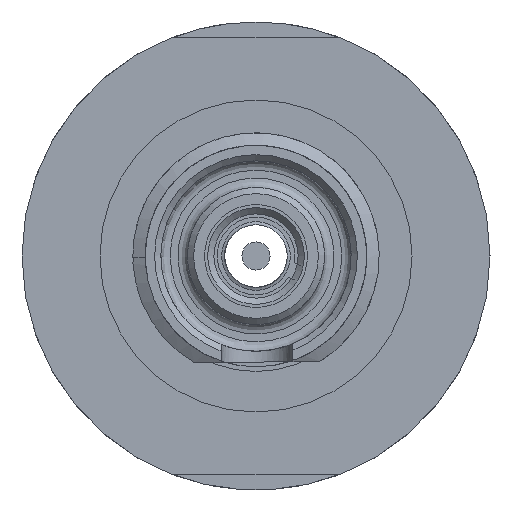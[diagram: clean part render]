
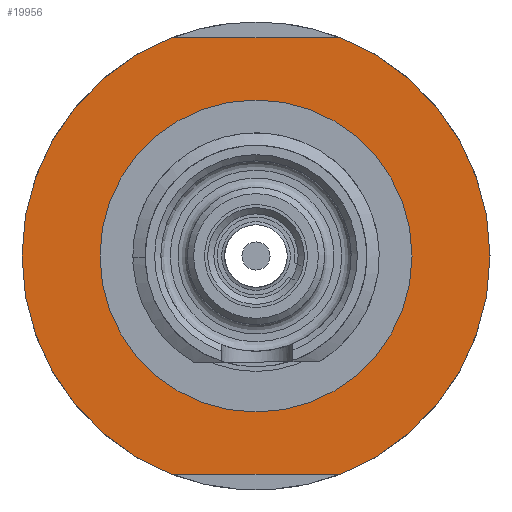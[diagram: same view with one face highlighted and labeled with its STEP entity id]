
A CAD part, left-side view. The second image highlights one B-rep face of the part: STEP entity #19956.
In plain terms, the highlighted planar face has unit normal (-1, 0, 0).
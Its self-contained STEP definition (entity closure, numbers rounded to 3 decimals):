
#566 = VERTEX_POINT ( 'NONE', #11360 ) ;
#1118 = DIRECTION ( 'NONE',  ( 1., 0., 0. ) ) ;
#1660 = DIRECTION ( 'NONE',  ( 0., 0., 1. ) ) ;
#2799 = VERTEX_POINT ( 'NONE', #12935 ) ;
#4430 = EDGE_CURVE ( 'NONE', #19466, #2799, #18056, .T. ) ;
#4949 = DIRECTION ( 'NONE',  ( 1., 0., 0. ) ) ;
#5007 = DIRECTION ( 'NONE',  ( 1., 0., 0. ) ) ;
#5402 = AXIS2_PLACEMENT_3D ( 'NONE', #18815, #1118, #20629 ) ;
#5439 = ORIENTED_EDGE ( 'NONE', *, *, #20822, .T. ) ;
#6197 = CARTESIAN_POINT ( 'NONE',  ( -40.4, 2.693, 7. ) ) ;
#6302 = ORIENTED_EDGE ( 'NONE', *, *, #18515, .F. ) ;
#6429 = LINE ( 'NONE', #11302, #13572 ) ;
#6894 = ORIENTED_EDGE ( 'NONE', *, *, #10269, .F. ) ;
#7379 = VERTEX_POINT ( 'NONE', #6197 ) ;
#7662 = ORIENTED_EDGE ( 'NONE', *, *, #19656, .T. ) ;
#8446 = CIRCLE ( 'NONE', #19016, 7.5 ) ;
#8624 = EDGE_LOOP ( 'NONE', ( #7662 ) ) ;
#8789 = DIRECTION ( 'NONE',  ( 1., 0., 0. ) ) ;
#9013 = CARTESIAN_POINT ( 'NONE',  ( -40.4, -2.693, -7. ) ) ;
#9449 = VECTOR ( 'NONE', #9721, 1000. ) ;
#9721 = DIRECTION ( 'NONE',  ( 0., 1., 0. ) ) ;
#10269 = EDGE_CURVE ( 'NONE', #2799, #7379, #10452, .T. ) ;
#10374 = CARTESIAN_POINT ( 'NONE',  ( -40.4, 0., 0. ) ) ;
#10452 = CIRCLE ( 'NONE', #10787, 7.5 ) ;
#10787 = AXIS2_PLACEMENT_3D ( 'NONE', #10374, #8789, #20220 ) ;
#11070 = CARTESIAN_POINT ( 'NONE',  ( -40.4, 0., 0. ) ) ;
#11302 = CARTESIAN_POINT ( 'NONE',  ( -40.4, -2.693, 7. ) ) ;
#11360 = CARTESIAN_POINT ( 'NONE',  ( -40.4, -2.693, 7. ) ) ;
#12904 = DIRECTION ( 'NONE',  ( 0., 1., 0. ) ) ;
#12935 = CARTESIAN_POINT ( 'NONE',  ( -40.4, 2.693, -7. ) ) ;
#13081 = VERTEX_POINT ( 'NONE', #21016 ) ;
#13572 = VECTOR ( 'NONE', #12904, 1000. ) ;
#13894 = CIRCLE ( 'NONE', #14579, 5. ) ;
#14579 = AXIS2_PLACEMENT_3D ( 'NONE', #16241, #4949, #1660 ) ;
#15636 = ORIENTED_EDGE ( 'NONE', *, *, #4430, .F. ) ;
#15994 = DIRECTION ( 'NONE',  ( 0., 0., 1. ) ) ;
#16241 = CARTESIAN_POINT ( 'NONE',  ( -40.4, 0., 0. ) ) ;
#16919 = EDGE_LOOP ( 'NONE', ( #5439, #6894, #15636, #6302 ) ) ;
#17416 = FACE_OUTER_BOUND ( 'NONE', #16919, .T. ) ;
#17518 = PLANE ( 'NONE',  #5402 ) ;
#18056 = LINE ( 'NONE', #19762, #9449 ) ;
#18515 = EDGE_CURVE ( 'NONE', #566, #19466, #8446, .T. ) ;
#18815 = CARTESIAN_POINT ( 'NONE',  ( -40.4, -7.5, 0. ) ) ;
#19016 = AXIS2_PLACEMENT_3D ( 'NONE', #11070, #5007, #15994 ) ;
#19466 = VERTEX_POINT ( 'NONE', #9013 ) ;
#19656 = EDGE_CURVE ( 'NONE', #13081, #13081, #13894, .T. ) ;
#19762 = CARTESIAN_POINT ( 'NONE',  ( -40.4, -2.693, -7. ) ) ;
#19956 = ADVANCED_FACE ( 'NONE', ( #20738, #17416 ), #17518, .F. ) ;
#20220 = DIRECTION ( 'NONE',  ( 0., 0., 1. ) ) ;
#20629 = DIRECTION ( 'NONE',  ( 0., 0., 1. ) ) ;
#20738 = FACE_BOUND ( 'NONE', #8624, .T. ) ;
#20822 = EDGE_CURVE ( 'NONE', #566, #7379, #6429, .T. ) ;
#21016 = CARTESIAN_POINT ( 'NONE',  ( -40.4, 0., 5. ) ) ;
